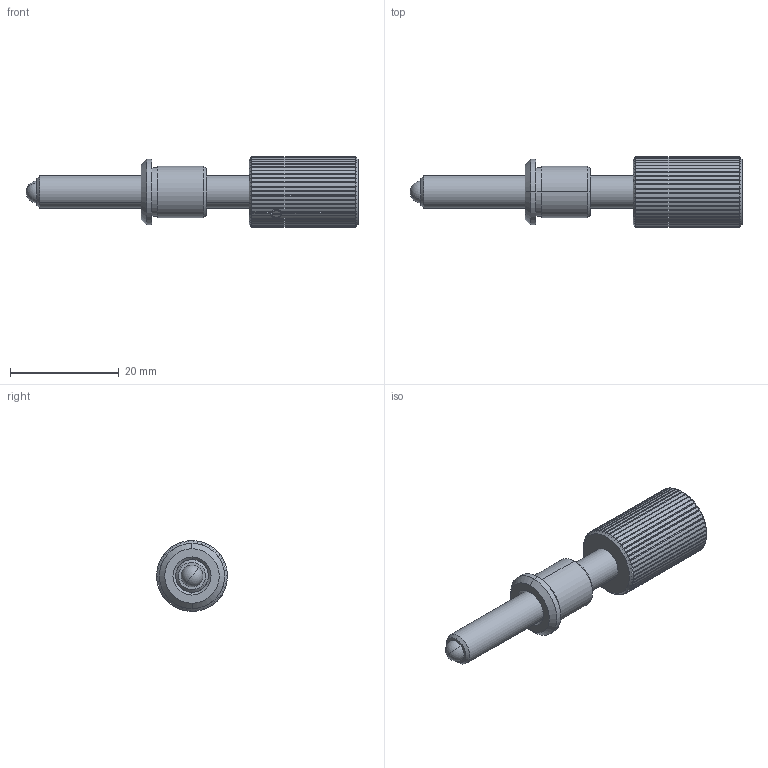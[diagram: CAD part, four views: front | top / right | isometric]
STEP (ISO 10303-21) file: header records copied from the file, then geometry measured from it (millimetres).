
FILE_DESCRIPTION (( 'STEP AP203' ), '1' );
FILE_NAME ('ACFS25-2.step', '2019-05-09T08:54:03', ( '' ), ( '' ), 'SwSTEP 2.0', 'SolidWorks 2016', '' );
FILE_SCHEMA (( 'CONFIG_CONTROL_DESIGN' ));
Length unit declared in the file: millimetre
Products named in the file (1): ACFS25-2
Bounding box: 61 x 13 x 13 mm (x, y, z)
Surface area: 2622.9 mm2 (no closed solid volume)
Topology: 0 solids, 6 shells, 227 faces, 883 edges, 659 vertices
Faces by surface type: plane 144, cylinder 65, cone 16, sphere 2
Entity records: 9527 total; most frequent: CARTESIAN_POINT 2473, ORIENTED_EDGE 1470, DIRECTION 1268, EDGE_CURVE 878, VERTEX_POINT 656, VECTOR 504, LINE 504, AXIS2_PLACEMENT_3D 382
